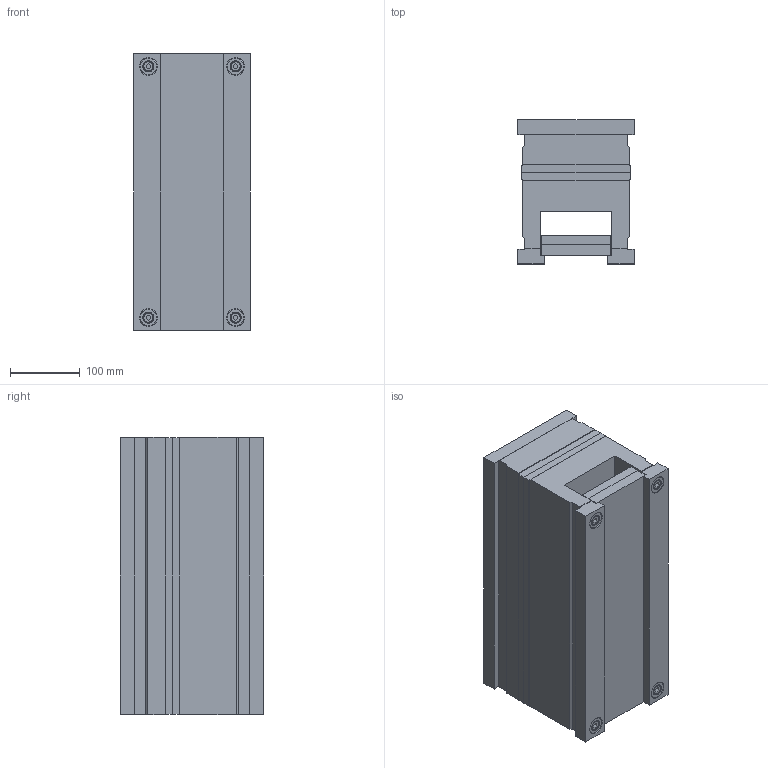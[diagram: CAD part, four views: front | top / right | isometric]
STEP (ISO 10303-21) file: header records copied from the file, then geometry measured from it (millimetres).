
FILE_DESCRIPTION (( 'STEP AP214' ), '1' );
FILE_NAME ('1566.STEP', '2002-07-10T07:50:57', ( 'Simcha Kilim' ), ( 'K. Plastics Engineering' ), 'SwSTEP 2.0', 'SolidWorks 2002025', '' );
FILE_SCHEMA (( 'AUTOMOTIVE_DESIGN' ));
Length unit declared in the file: millimetre
Products named in the file (12): 1566; ALMO (hot half)_1566; ALMO (guide bush)_Ø15; ALMO (guide pin)_Ø14; ALMO (guide pin)_Ø15; ALMO (ejector plate)_1566; ALMO (ejector half)_1566; ALMO (ejector return plate)_1566; ALMO (guide bush)_Ø14; ALMO (key plate)_Ø14; ALMO (screw)_M8x90; ALMO (screw)_M8x50
Assembly tree (28 placements, depth 2):
  1566
    ALMO (key plate)_Ø14  x8
    ALMO (guide pin)_Ø14  x3
    ALMO (hot half)_1566
    ALMO (guide bush)_Ø15
    ALMO (guide bush)_Ø14  x3
    ALMO (screw)_M8x90  x4
    ALMO (guide pin)_Ø15
    ALMO (ejector half)_1566
    ALMO (screw)_M8x50  x4
    ALMO (ejector plate)_1566
    ALMO (ejector return plate)_1566
Bounding box: 167 x 206 x 398 mm (x, y, z)
Volume: 10762425.5 mm3; surface area: 858982 mm2
Topology: 28 solids, 28 shells, 706 faces, 1496 edges, 924 vertices
Faces by surface type: cylinder 260, plane 254, cone 192
Entity records: 10477 total; most frequent: DIRECTION 1914, CARTESIAN_POINT 1683, ORIENTED_EDGE 1584, EDGE_CURVE 792, AXIS2_PLACEMENT_3D 729, VERTEX_POINT 498, LINE 456, VECTOR 456
